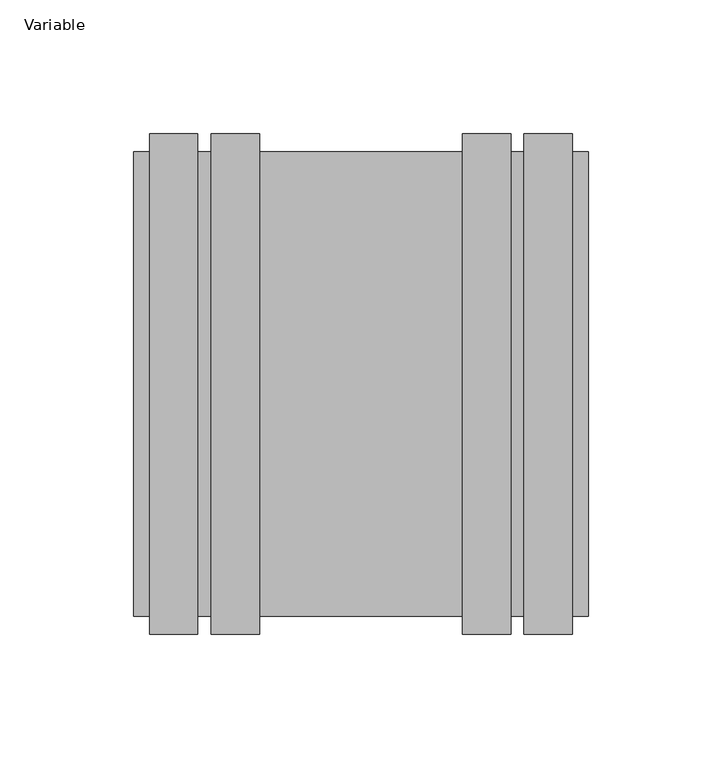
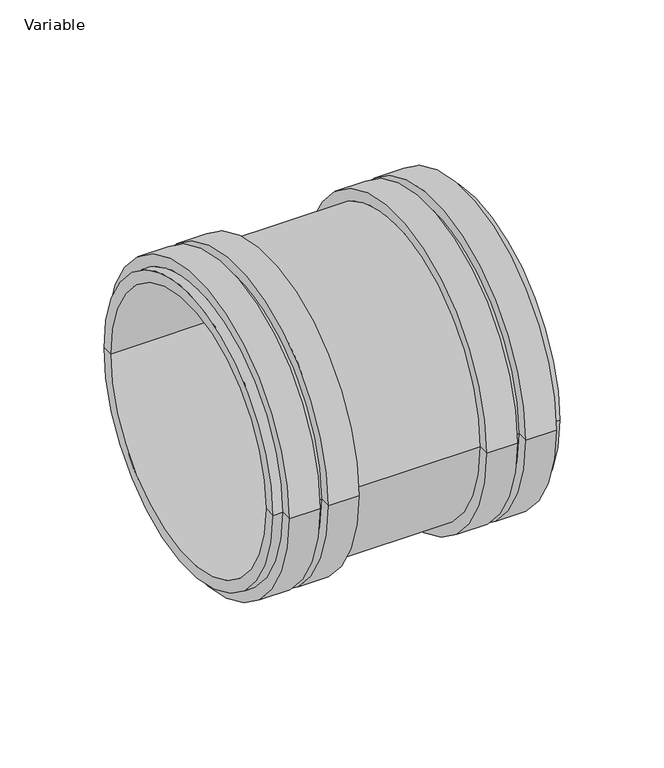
"""IFC4 building model written with IfcOpenShell, lengths in millimetres: pipe fitting geometry, AliaxisFR_Friaphon_AcousticCoupling_FR : Variable."""

from ifc_helpers import new_model, si_unit, frame, origin, place, context, project, spatial, polyline, circle_curve, source, transform, mapped, element, save
from ifc_brep_helpers import plane_surface, cylinder_surface, revolved_surface, advanced_brep


def variable_95dfb28e(model_context):
    return source(origin(), model_context, "Body", "AdvancedBrep", [
        advanced_brep(
        [(-7.0, -71.0, 0.0), (-7.0, 71.0, 0.0), (-7.0, 80.0, 0.0), (-7.0, -80.0, 0.0), (7.0, -71.0, 0.0), (7.0, 71.0, 0.0), (7.0, -80.0, 0.0), (7.0, 80.0, 0.0), (85.0, -80.0, 0.0), (85.0, 80.0, 0.0), (85.0, -86.75, 0.0), (85.0, 86.75, 0.0), (79.0, -86.75, 0.0), (79.0, 86.75, 0.0), (79.0, -93.5, 0.0), (79.0, 93.5, 0.0), (61.0, -93.5, 0.0), (61.0, 93.5, 0.0), (61.0, -86.75, 0.0), (61.0, 86.75, 0.0), (56.0, -86.75, 0.0), (56.0, 86.75, 0.0), (56.0, -93.5, 0.0), (56.0, 93.5, 0.0), (38.0, -93.5, 0.0), (38.0, 93.5, 0.0), (38.0, -86.75, 0.0), (38.0, 86.75, 0.0), (-38.0, -86.75, 0.0), (-38.0, 86.75, 0.0), (-38.0, -93.5, 0.0), (-38.0, 93.5, 0.0), (-56.0, -93.5, 0.0), (-56.0, 93.5, 0.0), (-56.0, -86.75, 0.0), (-56.0, 86.75, 0.0), (-61.0, -86.75, 0.0), (-61.0, 86.75, 0.0), (-61.0, -93.5, 0.0), (-61.0, 93.5, 0.0), (-79.0, -93.5, 0.0), (-79.0, 93.5, 0.0), (-79.0, -86.75, 0.0), (-79.0, 86.75, 0.0), (-85.0, -86.75, 0.0), (-85.0, 86.75, 0.0), (-85.0, -80.0, 0.0), (-85.0, 80.0, 0.0)],
        [
            (0, 1, circle_curve(frame((-7.0, 0.0, 0.0), z_axis=(1.0, 0.0, 0.0), x_axis=(0.0, 1.0, 0.0)), 71.0)),
            (1, 2),
            (2, 3, circle_curve(frame((-7.0, 0.0, 0.0), z_axis=(-1.0, 0.0, 0.0), x_axis=(0.0, 1.0, 0.0)), 80.0)),
            (3, 0),
            (1, 0, circle_curve(frame((-7.0, 0.0, 0.0), z_axis=(1.0, 0.0, 0.0), x_axis=(0.0, 1.0, 0.0)), 71.0)),
            (3, 2, circle_curve(frame((-7.0, 0.0, 0.0), z_axis=(-1.0, 0.0, 0.0), x_axis=(0.0, 1.0, 0.0)), 80.0)),
            (4, 5, circle_curve(frame((7.0, 0.0, 0.0), z_axis=(1.0, 0.0, 0.0), x_axis=(0.0, 1.0, 0.0)), 71.0)),
            (5, 1),
            (0, 4),
            (5, 4, circle_curve(frame((7.0, 0.0, 0.0), z_axis=(1.0, 0.0, 0.0), x_axis=(0.0, 1.0, 0.0)), 71.0)),
            (6, 7, circle_curve(frame((7.0, 0.0, 0.0), z_axis=(1.0, 0.0, 0.0), x_axis=(0.0, 1.0, 0.0)), 80.0)),
            (7, 5),
            (4, 6),
            (7, 6, circle_curve(frame((7.0, 0.0, 0.0), z_axis=(1.0, 0.0, 0.0), x_axis=(0.0, 1.0, 0.0)), 80.0)),
            (8, 9, circle_curve(frame((85.0, 0.0, 0.0), z_axis=(1.0, 0.0, 0.0), x_axis=(0.0, 1.0, 0.0)), 80.0)),
            (9, 7),
            (6, 8),
            (9, 8, circle_curve(frame((85.0, 0.0, 0.0), z_axis=(1.0, 0.0, 0.0), x_axis=(0.0, 1.0, 0.0)), 80.0)),
            (10, 11, circle_curve(frame((85.0, 0.0, 0.0), z_axis=(1.0, 0.0, 0.0), x_axis=(0.0, 1.0, 0.0)), 86.75)),
            (11, 9),
            (8, 10),
            (11, 10, circle_curve(frame((85.0, 0.0, 0.0), z_axis=(1.0, 0.0, 0.0), x_axis=(0.0, 1.0, 0.0)), 86.75)),
            (12, 13, circle_curve(frame((79.0, 0.0, 0.0), z_axis=(1.0, 0.0, 0.0), x_axis=(0.0, 1.0, 0.0)), 86.75)),
            (13, 11),
            (10, 12),
            (13, 12, circle_curve(frame((79.0, 0.0, 0.0), z_axis=(1.0, 0.0, 0.0), x_axis=(0.0, 1.0, 0.0)), 86.75)),
            (14, 15, circle_curve(frame((79.0, 0.0, 0.0), z_axis=(1.0, 0.0, 0.0), x_axis=(0.0, 1.0, 0.0)), 93.5)),
            (15, 13),
            (12, 14),
            (15, 14, circle_curve(frame((79.0, 0.0, 0.0), z_axis=(1.0, 0.0, 0.0), x_axis=(0.0, 1.0, 0.0)), 93.5)),
            (16, 17, circle_curve(frame((61.0, 0.0, 0.0), z_axis=(1.0, 0.0, 0.0), x_axis=(0.0, 1.0, 0.0)), 93.5)),
            (17, 15),
            (14, 16),
            (17, 16, circle_curve(frame((61.0, 0.0, 0.0), z_axis=(1.0, 0.0, 0.0), x_axis=(0.0, 1.0, 0.0)), 93.5)),
            (18, 19, circle_curve(frame((61.0, 0.0, 0.0), z_axis=(1.0, 0.0, 0.0), x_axis=(0.0, 1.0, 0.0)), 86.75)),
            (19, 17),
            (16, 18),
            (19, 18, circle_curve(frame((61.0, 0.0, 0.0), z_axis=(1.0, 0.0, 0.0), x_axis=(0.0, 1.0, 0.0)), 86.75)),
            (20, 21, circle_curve(frame((56.0, 0.0, 0.0), z_axis=(1.0, 0.0, 0.0), x_axis=(0.0, 1.0, 0.0)), 86.75)),
            (21, 19),
            (18, 20),
            (21, 20, circle_curve(frame((56.0, 0.0, 0.0), z_axis=(1.0, 0.0, 0.0), x_axis=(0.0, 1.0, 0.0)), 86.75)),
            (22, 23, circle_curve(frame((56.0, 0.0, 0.0), z_axis=(1.0, 0.0, 0.0), x_axis=(0.0, 1.0, 0.0)), 93.5)),
            (23, 21),
            (20, 22),
            (23, 22, circle_curve(frame((56.0, 0.0, 0.0), z_axis=(1.0, 0.0, 0.0), x_axis=(0.0, 1.0, 0.0)), 93.5)),
            (24, 25, circle_curve(frame((38.0, 0.0, 0.0), z_axis=(1.0, 0.0, 0.0), x_axis=(0.0, 1.0, 0.0)), 93.5)),
            (25, 23),
            (22, 24),
            (25, 24, circle_curve(frame((38.0, 0.0, 0.0), z_axis=(1.0, 0.0, 0.0), x_axis=(0.0, 1.0, 0.0)), 93.5)),
            (26, 27, circle_curve(frame((38.0, 0.0, 0.0), z_axis=(1.0, 0.0, 0.0), x_axis=(0.0, 1.0, 0.0)), 86.75)),
            (27, 25),
            (24, 26),
            (27, 26, circle_curve(frame((38.0, 0.0, 0.0), z_axis=(1.0, 0.0, 0.0), x_axis=(0.0, 1.0, 0.0)), 86.75)),
            (28, 29, circle_curve(frame((-38.0, 0.0, 0.0), z_axis=(1.0, 0.0, 0.0), x_axis=(0.0, 1.0, 0.0)), 86.75)),
            (29, 27),
            (26, 28),
            (29, 28, circle_curve(frame((-38.0, 0.0, 0.0), z_axis=(1.0, 0.0, 0.0), x_axis=(0.0, 1.0, 0.0)), 86.75)),
            (30, 31, circle_curve(frame((-38.0, 0.0, 0.0), z_axis=(1.0, 0.0, 0.0), x_axis=(0.0, 1.0, 0.0)), 93.5)),
            (31, 29),
            (28, 30),
            (31, 30, circle_curve(frame((-38.0, 0.0, 0.0), z_axis=(1.0, 0.0, 0.0), x_axis=(0.0, 1.0, 0.0)), 93.5)),
            (32, 33, circle_curve(frame((-56.0, 0.0, 0.0), z_axis=(1.0, 0.0, 0.0), x_axis=(0.0, 1.0, 0.0)), 93.5)),
            (33, 31),
            (30, 32),
            (33, 32, circle_curve(frame((-56.0, 0.0, 0.0), z_axis=(1.0, 0.0, 0.0), x_axis=(0.0, 1.0, 0.0)), 93.5)),
            (34, 35, circle_curve(frame((-56.0, 0.0, 0.0), z_axis=(1.0, 0.0, 0.0), x_axis=(0.0, 1.0, 0.0)), 86.75)),
            (35, 33),
            (32, 34),
            (35, 34, circle_curve(frame((-56.0, 0.0, 0.0), z_axis=(1.0, 0.0, 0.0), x_axis=(0.0, 1.0, 0.0)), 86.75)),
            (36, 37, circle_curve(frame((-61.0, 0.0, 0.0), z_axis=(1.0, 0.0, 0.0), x_axis=(0.0, 1.0, 0.0)), 86.75)),
            (37, 35),
            (34, 36),
            (37, 36, circle_curve(frame((-61.0, 0.0, 0.0), z_axis=(1.0, 0.0, 0.0), x_axis=(0.0, 1.0, 0.0)), 86.75)),
            (38, 39, circle_curve(frame((-61.0, 0.0, 0.0), z_axis=(1.0, 0.0, 0.0), x_axis=(0.0, 1.0, 0.0)), 93.5)),
            (39, 37),
            (36, 38),
            (39, 38, circle_curve(frame((-61.0, 0.0, 0.0), z_axis=(1.0, 0.0, 0.0), x_axis=(0.0, 1.0, 0.0)), 93.5)),
            (40, 41, circle_curve(frame((-79.0, 0.0, 0.0), z_axis=(1.0, 0.0, 0.0), x_axis=(0.0, 1.0, 0.0)), 93.5)),
            (41, 39),
            (38, 40),
            (41, 40, circle_curve(frame((-79.0, 0.0, 0.0), z_axis=(1.0, 0.0, 0.0), x_axis=(0.0, 1.0, 0.0)), 93.5)),
            (42, 43, circle_curve(frame((-79.0, 0.0, 0.0), z_axis=(1.0, 0.0, 0.0), x_axis=(0.0, 1.0, 0.0)), 86.75)),
            (43, 41),
            (40, 42),
            (43, 42, circle_curve(frame((-79.0, 0.0, 0.0), z_axis=(1.0, 0.0, 0.0), x_axis=(0.0, 1.0, 0.0)), 86.75)),
            (44, 45, circle_curve(frame((-85.0, 0.0, 0.0), z_axis=(1.0, 0.0, 0.0), x_axis=(0.0, 1.0, 0.0)), 86.75)),
            (45, 43),
            (42, 44),
            (45, 44, circle_curve(frame((-85.0, 0.0, 0.0), z_axis=(1.0, 0.0, 0.0), x_axis=(0.0, 1.0, 0.0)), 86.75)),
            (46, 47, circle_curve(frame((-85.0, 0.0, 0.0), z_axis=(1.0, 0.0, 0.0), x_axis=(0.0, 1.0, 0.0)), 80.0)),
            (47, 45),
            (44, 46),
            (47, 46, circle_curve(frame((-85.0, 0.0, 0.0), z_axis=(1.0, 0.0, 0.0), x_axis=(0.0, 1.0, 0.0)), 80.0)),
            (2, 47),
            (46, 3),
        ],
        [
            plane_surface(frame((-7.0, 0.0, 0.0), z_axis=(-1.0, 0.0, 0.0), x_axis=(0.0, 1.0, 0.0))),
            revolved_surface(polyline([(-7.0, 71.0, 0.0), (7.0, 71.0, 0.0)]), (2033.0, 0.0, 0.0), (-1.0, 0.0, 0.0)),
            plane_surface(frame((7.0, 0.0, 0.0), z_axis=(1.0, 0.0, 0.0), x_axis=(0.0, 1.0, 0.0))),
            revolved_surface(polyline([(7.0, 80.0, 0.0), (85.0, 80.0, 0.0)]), (2033.0, 0.0, 0.0), (-1.0, 0.0, 0.0)),
            plane_surface(frame((85.0, 0.0, 0.0), z_axis=(1.0, 0.0, 0.0), x_axis=(0.0, 1.0, 0.0))),
            cylinder_surface(frame((2033.0, 0.0, 0.0), z_axis=(-1.0, 0.0, 0.0), x_axis=(0.0, 1.0, 0.0)), 86.75),
            plane_surface(frame((79.0, 0.0, 0.0), z_axis=(1.0, 0.0, 0.0), x_axis=(0.0, 1.0, 0.0))),
            cylinder_surface(frame((2033.0, 0.0, 0.0), z_axis=(-1.0, 0.0, 0.0), x_axis=(0.0, 1.0, 0.0)), 93.5),
            plane_surface(frame((61.0, 0.0, 0.0), z_axis=(-1.0, 0.0, 0.0), x_axis=(0.0, 1.0, 0.0))),
            plane_surface(frame((56.0, 0.0, 0.0), z_axis=(1.0, 0.0, 0.0), x_axis=(0.0, 1.0, 0.0))),
            plane_surface(frame((38.0, 0.0, 0.0), z_axis=(-1.0, 0.0, 0.0), x_axis=(0.0, 1.0, 0.0))),
            plane_surface(frame((-38.0, 0.0, 0.0), z_axis=(1.0, 0.0, 0.0), x_axis=(0.0, 1.0, 0.0))),
            plane_surface(frame((-56.0, 0.0, 0.0), z_axis=(-1.0, 0.0, 0.0), x_axis=(0.0, 1.0, 0.0))),
            plane_surface(frame((-61.0, 0.0, 0.0), z_axis=(1.0, 0.0, 0.0), x_axis=(0.0, 1.0, 0.0))),
            plane_surface(frame((-79.0, 0.0, 0.0), z_axis=(-1.0, 0.0, 0.0), x_axis=(0.0, 1.0, 0.0))),
            plane_surface(frame((-85.0, 0.0, 0.0), z_axis=(-1.0, 0.0, 0.0), x_axis=(0.0, 1.0, 0.0))),
            revolved_surface(polyline([(-85.0, 80.0, 0.0), (-7.0, 80.0, 0.0)]), (2033.0, 0.0, 0.0), (-1.0, 0.0, 0.0)),
        ],
        [
            (0, [[1, 2, 3, 4]]),
            (0, [[5, -4, 6, -2]]),
            (1, [[7, 8, -1, 9]]),
            (1, [[10, -9, -5, -8]]),
            (2, [[11, 12, -7, 13]]),
            (2, [[14, -13, -10, -12]]),
            (3, [[15, 16, -11, 17]]),
            (3, [[18, -17, -14, -16]]),
            (4, [[19, 20, -15, 21]]),
            (4, [[22, -21, -18, -20]]),
            (5, [[23, 24, -19, 25]]),
            (5, [[26, -25, -22, -24]]),
            (6, [[27, 28, -23, 29]]),
            (6, [[30, -29, -26, -28]]),
            (7, [[31, 32, -27, 33]]),
            (7, [[34, -33, -30, -32]]),
            (8, [[35, 36, -31, 37]]),
            (8, [[38, -37, -34, -36]]),
            (5, [[39, 40, -35, 41]]),
            (5, [[42, -41, -38, -40]]),
            (9, [[43, 44, -39, 45]]),
            (9, [[46, -45, -42, -44]]),
            (7, [[47, 48, -43, 49]]),
            (7, [[50, -49, -46, -48]]),
            (10, [[51, 52, -47, 53]]),
            (10, [[54, -53, -50, -52]]),
            (5, [[55, 56, -51, 57]]),
            (5, [[58, -57, -54, -56]]),
            (11, [[59, 60, -55, 61]]),
            (11, [[62, -61, -58, -60]]),
            (7, [[63, 64, -59, 65]]),
            (7, [[66, -65, -62, -64]]),
            (12, [[67, 68, -63, 69]]),
            (12, [[70, -69, -66, -68]]),
            (5, [[71, 72, -67, 73]]),
            (5, [[74, -73, -70, -72]]),
            (13, [[75, 76, -71, 77]]),
            (13, [[78, -77, -74, -76]]),
            (7, [[79, 80, -75, 81]]),
            (7, [[82, -81, -78, -80]]),
            (14, [[83, 84, -79, 85]]),
            (14, [[86, -85, -82, -84]]),
            (5, [[87, 88, -83, 89]]),
            (5, [[90, -89, -86, -88]]),
            (15, [[91, 92, -87, 93]]),
            (15, [[94, -93, -90, -92]]),
            (16, [[-3, 95, -91, 96]]),
            (16, [[-6, -96, -94, -95]]),
        ],
    ),
    ])


if __name__ == "__main__":
    model = new_model("IFC4")
    model_context = context("Model", 3, world=origin())
    ifc_project = project(units=[si_unit("LENGTHUNIT", "METRE", prefix="MILLI")], contexts=[model_context])
    site = spatial("IfcSite", under=ifc_project)
    building = spatial("IfcBuilding", under=site)
    placement = place(None, origin())
    variable_shape = variable_95dfb28e(model_context)
    element("IfcPipeFitting", 1, ObjectType="AliaxisFR_Friaphon_AcousticCoupling_FR : Variable", at=placement, inside=building, context=model_context, shape_type="MappedRepresentation", body=[
        mapped(variable_shape, transform((0.0, 0.0, 0.0), x_axis=(1.0, 0.0, 0.0), y_axis=(0.0, 1.0, 0.0), z_axis=(0.0, 0.0, 1.0))),
    ])
    save(model, "model.ifc")
